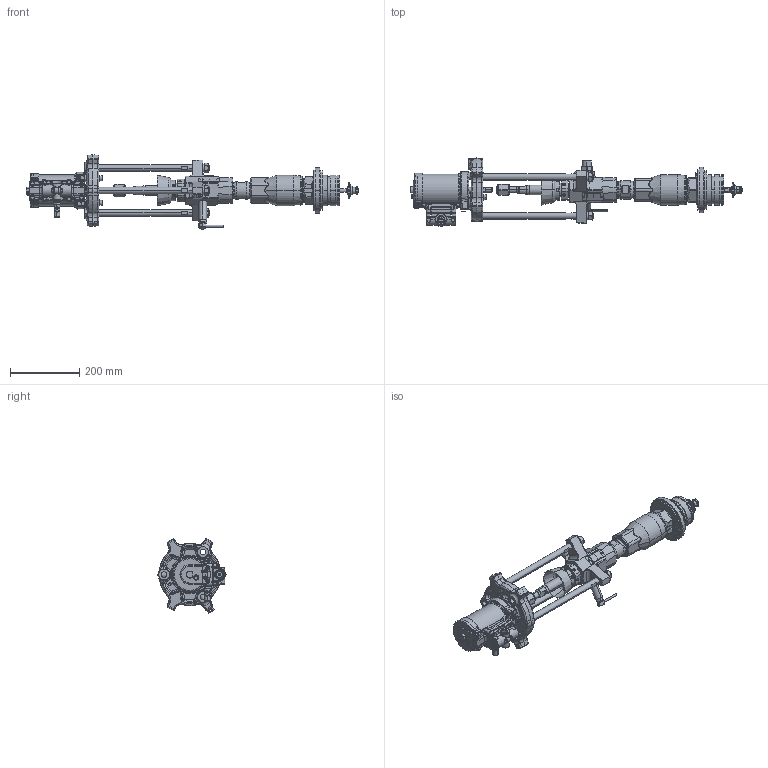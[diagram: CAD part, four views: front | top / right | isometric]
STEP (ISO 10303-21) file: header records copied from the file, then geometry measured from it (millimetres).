
FILE_DESCRIPTION((''),'2;1');
FILE_NAME('P05LCS-EN-G_PRT','2020-05-28T13:56:54',('qusrh3'),(''),'CREO PARAMETRIC BY PTC INC, 2019030','CREO PARAMETRIC BY PTC INC, 2019030','');
FILE_SCHEMA(('CONFIG_CONTROL_DESIGN'));
Products named in the file (1): P05LCS-EN-G_PRT
Bounding box: 960.34 x 196.97 x 215.64 mm (x, y, z)
Surface area: 659810.2 mm2 (no closed solid volume)
Topology: 0 solids, 334 shells, 2292 faces, 9152 edges, 6922 vertices
Faces by surface type: plane 630, cylinder 508, cone 495, torus 349, bspline 304, sphere 6
Entity records: 123163 total; most frequent: CARTESIAN_POINT 55549, ORIENTED_EDGE 12767, DIRECTION 12610, EDGE_CURVE 9149, VERTEX_POINT 6922, AXIS2_PLACEMENT_3D 5038, B_SPLINE_CURVE_WITH_KNOTS 3565, CIRCLE 3050
